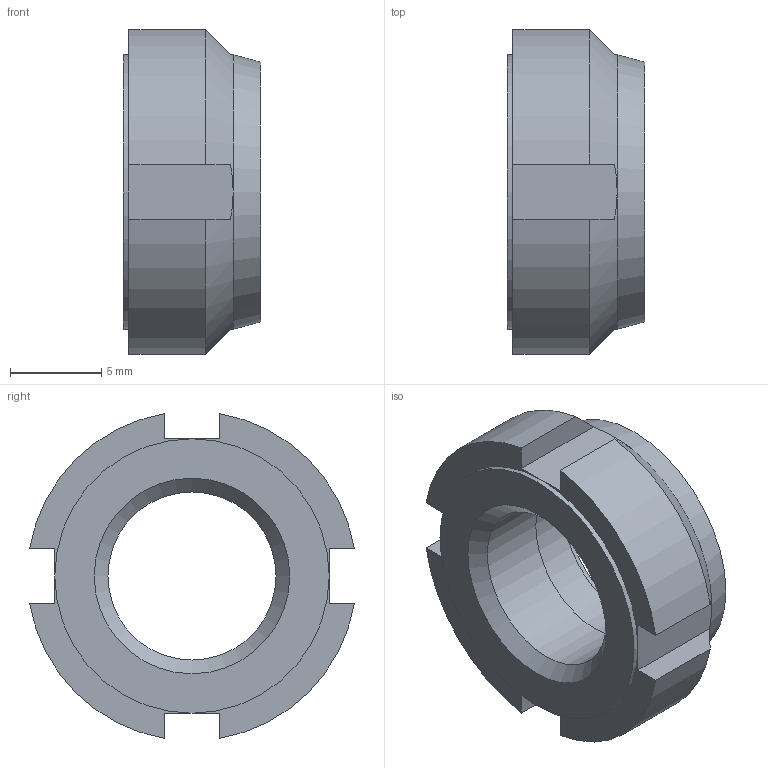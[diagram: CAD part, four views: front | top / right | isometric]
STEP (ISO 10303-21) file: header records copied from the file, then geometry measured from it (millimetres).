
FILE_DESCRIPTION( ( 'STEP AP203' ), '1' );
FILE_NAME( 'C:/Temp/Ganter_Step_05_03_2020/data/3_2/gn1804_1/Slotted locknut self-locking GN 1804.1-M10x0,75.stp', '2020-03-13T05:25:12', ( 'License CC BY-ND 4.0' ), ( 'CADENAS' ), ' ', 'PARTsolutions', ' ' );
FILE_SCHEMA( ( 'CONFIG_CONTROL_DESIGN' ) );
Length unit declared in the file: millimetre
Products named in the file (1): _Slotted locknut self-locking GN 1804.1-M10x0,75
Bounding box: 7.5 x 17.75 x 17.75 mm (x, y, z)
Volume: 1072.8 mm3; surface area: 952.1 mm2
Topology: 1 solids, 1 shells, 34 faces, 79 edges, 49 vertices
Faces by surface type: plane 20, cylinder 8, cone 6
Full cylindrical faces by diameter (mm): 9.188 x1, 9.4 x1, 11 x1, 15 x1
Entity records: 1010 total; most frequent: CARTESIAN_POINT 221, DIRECTION 152, ORIENTED_EDGE 146, EDGE_CURVE 73, AXIS2_PLACEMENT_3D 60, VERTEX_POINT 49, EDGE_LOOP 44, FACE_OUTER_BOUND 38
